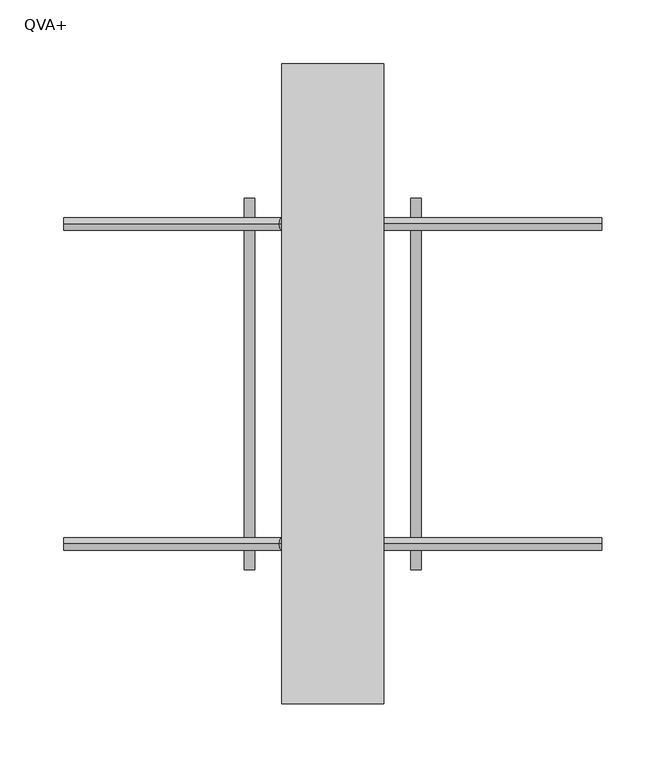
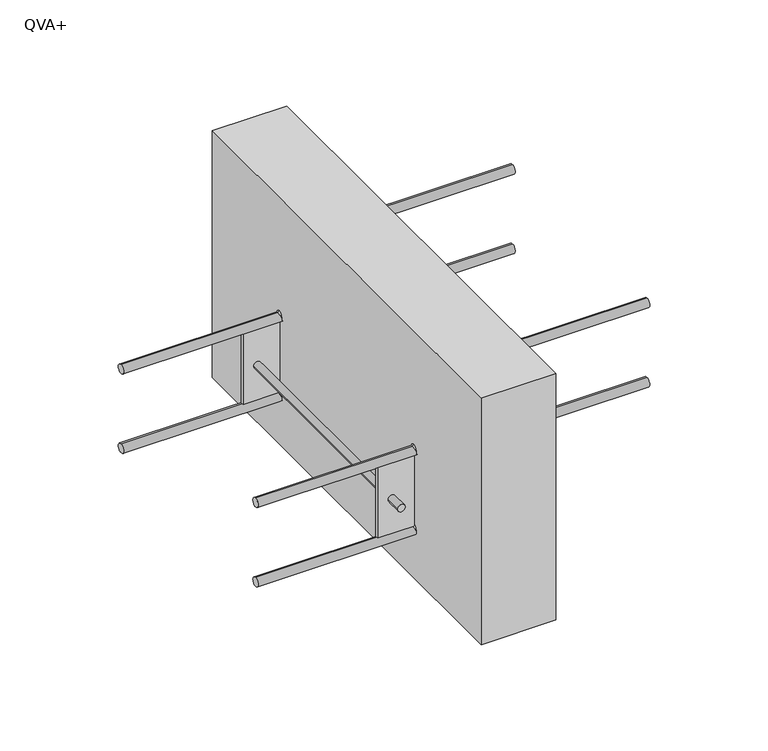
"""IFC4 building model written with IfcOpenShell, lengths in millimetres: fastener geometry, ACINOXplus_Typenreihe_QV : QVA+."""

from ifc_helpers import new_model, si_unit, point, frame, frame_2d, origin, place, context, project, spatial, polyline, circle_curve, ellipse_curve, trimmed, segment, composite_curve, outline, extrude, source, transform, mapped, element, save
from ifc_brep_helpers import plane_surface, cylinder_surface, advanced_brep


def qva_7600d649(model_context):
    return source(origin(), model_context, "Body", "SolidModel", [
        extrude(outline(polyline([(40.0, 250.0), (40.0, -250.0), (-40.0, -250.0), (-40.0, 250.0), (40.0, 250.0)])), frame((0.0, 0.0, -200.0), z_axis=(0.0, 0.0, 1.0), x_axis=(1.0, 0.0, 0.0)), (0.0, 0.0, 1.0), 280.0),
        extrude(outline(polyline([(-60.0, -40.0), (-60.0, -80.0), (-140.0, -80.0), (-140.0, -40.0), (-60.0, 40.0), (-60.0, 80.0), (20.0, 80.0), (20.0, 40.0), (-60.0, -40.0)])), frame((0.0, 123.5, 0.0), z_axis=(0.0, 1.0, 0.0), x_axis=(0.0, 0.0, 1.0)), (0.0, 0.0, 1.0), 3.0),
        extrude(outline(polyline([(-60.0, -40.0), (-60.0, -80.0), (-140.0, -80.0), (-140.0, -40.0), (-60.0, 40.0), (-60.0, 80.0), (20.0, 80.0), (20.0, 40.0), (-60.0, -40.0)])), frame((0.0, -126.5, 0.0), z_axis=(0.0, 1.0, 0.0), x_axis=(0.0, 0.0, 1.0)), (0.0, 0.0, 1.0), 3.0),
        extrude(outline(composite_curve([segment(trimmed(circle_curve(frame_2d((-100.0, -65.0)), 4.0), [point((-100.0, -69.0))], [point((-100.0, -61.0))], False, "CARTESIAN"), True, "CONTINUOUS"), segment(trimmed(circle_curve(frame_2d((-100.0, -65.0)), 4.0), [point((-100.0, -61.0))], [point((-100.0, -69.0))], False, "CARTESIAN"), True, "CONTINUOUS")], self_intersect=False)), frame((0.0, 126.5, 0.0), z_axis=(0.0, 1.0, 0.0), x_axis=(0.0, 0.0, 1.0)), (0.0, 0.0, 1.0), 18.5),
        extrude(outline(composite_curve([segment(trimmed(circle_curve(frame_2d((-100.0, -65.0)), 4.0), [point((-100.0, -61.0))], [point((-100.0, -69.0))], False, "CARTESIAN"), True, "CONTINUOUS"), segment(trimmed(circle_curve(frame_2d((-100.0, -65.0)), 4.0), [point((-100.0, -69.0))], [point((-100.0, -61.0))], False, "CARTESIAN"), True, "CONTINUOUS")], self_intersect=False)), frame((0.0, -145.0, 0.0), z_axis=(0.0, 1.0, 0.0), x_axis=(0.0, 0.0, 1.0)), (0.0, 0.0, 1.0), 18.5),
        extrude(outline(composite_curve([segment(trimmed(circle_curve(frame_2d((-100.0, -65.0)), 4.0), [point((-100.0, -69.0))], [point((-100.0, -61.0))], False, "CARTESIAN"), True, "CONTINUOUS"), segment(trimmed(circle_curve(frame_2d((-100.0, -65.0)), 4.0), [point((-100.0, -61.0))], [point((-100.0, -69.0))], False, "CARTESIAN"), True, "CONTINUOUS")], self_intersect=False)), frame((0.0, -123.5, 0.0), z_axis=(0.0, 1.0, 0.0), x_axis=(0.0, 0.0, 1.0)), (0.0, 0.0, 1.0), 247.0),
        extrude(outline(composite_curve([segment(trimmed(circle_curve(frame_2d((-20.0, 65.0)), 4.0), [point((-20.0, 61.0))], [point((-20.0, 69.0))], False, "CARTESIAN"), True, "CONTINUOUS"), segment(trimmed(circle_curve(frame_2d((-20.0, 65.0)), 4.0), [point((-20.0, 69.0))], [point((-20.0, 61.0))], False, "CARTESIAN"), True, "CONTINUOUS")], self_intersect=False)), frame((0.0, 126.5, 0.0), z_axis=(0.0, 1.0, 0.0), x_axis=(0.0, 0.0, 1.0)), (0.0, 0.0, 1.0), 18.5),
        extrude(outline(composite_curve([segment(trimmed(circle_curve(frame_2d((-20.0, 65.0)), 4.0), [point((-20.0, 69.0))], [point((-20.0, 61.0))], False, "CARTESIAN"), True, "CONTINUOUS"), segment(trimmed(circle_curve(frame_2d((-20.0, 65.0)), 4.0), [point((-20.0, 61.0))], [point((-20.0, 69.0))], False, "CARTESIAN"), True, "CONTINUOUS")], self_intersect=False)), frame((0.0, -145.0, 0.0), z_axis=(0.0, 1.0, 0.0), x_axis=(0.0, 0.0, 1.0)), (0.0, 0.0, 1.0), 18.5),
        extrude(outline(composite_curve([segment(trimmed(circle_curve(frame_2d((-20.0, 65.0)), 4.0), [point((-20.0, 61.0))], [point((-20.0, 69.0))], False, "CARTESIAN"), True, "CONTINUOUS"), segment(trimmed(circle_curve(frame_2d((-20.0, 65.0)), 4.0), [point((-20.0, 69.0))], [point((-20.0, 61.0))], False, "CARTESIAN"), True, "CONTINUOUS")], self_intersect=False)), frame((0.0, -123.5, 0.0), z_axis=(0.0, 1.0, 0.0), x_axis=(0.0, 0.0, 1.0)), (0.0, 0.0, 1.0), 247.0),
        advanced_brep(
        [(-210.0, -125.0, -150.0), (-210.0, -125.0, -140.0), (-37.9289322, -125.0, -150.0), (-42.0710678, -125.0, -140.0), (42.0710678, -125.0, -70.0), (37.9289322, -125.0, -60.0), (210.0, -125.0, -70.0), (210.0, -125.0, -60.0)],
        [
            (0, 1, circle_curve(frame((-210.0, -125.0, -145.0), z_axis=(-1.0, 0.0, 0.0), x_axis=(0.0, 0.0, 1.0)), 5.0)),
            (1, 0, circle_curve(frame((-210.0, -125.0, -145.0), z_axis=(-1.0, 0.0, 0.0), x_axis=(0.0, 0.0, 1.0)), 5.0)),
            (0, 2),
            (2, 3, ellipse_curve(frame((-40.0, -125.0, -145.0), z_axis=(-0.9238795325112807, 0.0, -0.38268343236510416), x_axis=(-0.38268343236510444, 0.0, 0.9238795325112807)), 5.411961, 5.0)),
            (3, 1),
            (3, 2, ellipse_curve(frame((-40.0, -125.0, -145.0), z_axis=(-0.9238795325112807, 0.0, -0.38268343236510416), x_axis=(-0.38268343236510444, 0.0, 0.9238795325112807)), 5.411961, 5.0)),
            (2, 4),
            (4, 5, ellipse_curve(frame((40.0, -125.0, -65.0), z_axis=(-0.9238795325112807, 0.0, -0.38268343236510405), x_axis=(0.3826834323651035, 0.0, -0.923879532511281)), 5.411961, 5.0)),
            (5, 3),
            (5, 4, ellipse_curve(frame((40.0, -125.0, -65.0), z_axis=(-0.9238795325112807, 0.0, -0.38268343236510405), x_axis=(0.3826834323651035, 0.0, -0.923879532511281)), 5.411961, 5.0)),
            (6, 7, circle_curve(frame((210.0, -125.0, -65.0), z_axis=(1.0, 0.0, 0.0), x_axis=(0.0, 0.0, 1.0)), 5.0)),
            (7, 6, circle_curve(frame((210.0, -125.0, -65.0), z_axis=(1.0, 0.0, 0.0), x_axis=(0.0, 0.0, 1.0)), 5.0)),
            (4, 6),
            (7, 5),
        ],
        [
            plane_surface(frame((-210.0, -125.0, -145.0), z_axis=(-1.0, 0.0, 0.0), x_axis=(0.0, -1.0, 0.0))),
            cylinder_surface(frame((-210.0, -125.0, -145.0), z_axis=(-1.0, 0.0, 0.0), x_axis=(0.0, 0.0, 1.0)), 5.0),
            cylinder_surface(frame((-40.0, -125.0, -145.0), z_axis=(-0.7071067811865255, 0.0, -0.7071067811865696), x_axis=(-0.7071067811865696, 0.0, 0.7071067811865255)), 5.0),
            plane_surface(frame((210.0, -125.0, -65.0), z_axis=(1.0, 0.0, 0.0), x_axis=(0.0, -1.0, 0.0))),
            cylinder_surface(frame((40.0, -125.0, -65.0), z_axis=(-1.0, 0.0, 0.0), x_axis=(0.0, 0.0, 1.0)), 5.0),
        ],
        [
            (0, [[1, 2]]),
            (1, [[-1, 3, 4, 5]]),
            (1, [[-2, -5, 6, -3]]),
            (2, [[-4, 7, 8, 9]]),
            (2, [[-6, -9, 10, -7]]),
            (3, [[11, 12]]),
            (4, [[-8, 13, -12, 14]]),
            (4, [[-10, -14, -11, -13]]),
        ],
    ),
        advanced_brep(
        [(-210.0, 125.0, -150.0), (-210.0, 125.0, -140.0), (-37.9289322, 125.0, -150.0), (-42.0710678, 125.0, -140.0), (42.0710678, 125.0, -70.0), (37.9289322, 125.0, -60.0), (210.0, 125.0, -70.0), (210.0, 125.0, -60.0)],
        [
            (0, 1, circle_curve(frame((-210.0, 125.0, -145.0), z_axis=(-1.0, 0.0, 0.0), x_axis=(0.0, 0.0, 1.0)), 5.0)),
            (1, 0, circle_curve(frame((-210.0, 125.0, -145.0), z_axis=(-1.0, 0.0, 0.0), x_axis=(0.0, 0.0, 1.0)), 5.0)),
            (0, 2),
            (2, 3, ellipse_curve(frame((-40.0, 125.0, -145.0), z_axis=(-0.9238795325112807, 0.0, -0.38268343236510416), x_axis=(-0.38268343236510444, 0.0, 0.9238795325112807)), 5.411961, 5.0)),
            (3, 1),
            (3, 2, ellipse_curve(frame((-40.0, 125.0, -145.0), z_axis=(-0.9238795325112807, 0.0, -0.38268343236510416), x_axis=(-0.38268343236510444, 0.0, 0.9238795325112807)), 5.411961, 5.0)),
            (2, 4),
            (4, 5, ellipse_curve(frame((40.0, 125.0, -65.0), z_axis=(-0.9238795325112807, 0.0, -0.38268343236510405), x_axis=(0.3826834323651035, 0.0, -0.923879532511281)), 5.411961, 5.0)),
            (5, 3),
            (5, 4, ellipse_curve(frame((40.0, 125.0, -65.0), z_axis=(-0.9238795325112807, 0.0, -0.38268343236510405), x_axis=(0.3826834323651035, 0.0, -0.923879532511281)), 5.411961, 5.0)),
            (6, 7, circle_curve(frame((210.0, 125.0, -65.0), z_axis=(1.0, 0.0, 0.0), x_axis=(0.0, 0.0, 1.0)), 5.0)),
            (7, 6, circle_curve(frame((210.0, 125.0, -65.0), z_axis=(1.0, 0.0, 0.0), x_axis=(0.0, 0.0, 1.0)), 5.0)),
            (4, 6),
            (7, 5),
        ],
        [
            plane_surface(frame((-210.0, 125.0, -145.0), z_axis=(-1.0, 0.0, 0.0), x_axis=(0.0, -1.0, 0.0))),
            cylinder_surface(frame((-210.0, 125.0, -145.0), z_axis=(-1.0, 0.0, 0.0), x_axis=(0.0, 0.0, 1.0)), 5.0),
            cylinder_surface(frame((-40.0, 125.0, -145.0), z_axis=(-0.7071067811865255, 0.0, -0.7071067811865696), x_axis=(-0.7071067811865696, 0.0, 0.7071067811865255)), 5.0),
            plane_surface(frame((210.0, 125.0, -65.0), z_axis=(1.0, 0.0, 0.0), x_axis=(0.0, -1.0, 0.0))),
            cylinder_surface(frame((40.0, 125.0, -65.0), z_axis=(-1.0, 0.0, 0.0), x_axis=(0.0, 0.0, 1.0)), 5.0),
        ],
        [
            (0, [[1, 2]]),
            (1, [[-1, 3, 4, 5]]),
            (1, [[-2, -5, 6, -3]]),
            (2, [[-4, 7, 8, 9]]),
            (2, [[-6, -9, 10, -7]]),
            (3, [[11, 12]]),
            (4, [[-8, 13, -12, 14]]),
            (4, [[-10, -14, -11, -13]]),
        ],
    ),
        advanced_brep(
        [(-210.0, 125.0, -150.0), (-210.0, 125.0, -140.0), (-37.9289322, 125.0, -150.0), (-42.0710678, 125.0, -140.0), (42.0710678, 125.0, -70.0), (37.9289322, 125.0, -60.0), (210.0, 125.0, -70.0), (210.0, 125.0, -60.0)],
        [
            (0, 1, circle_curve(frame((-210.0, 125.0, -145.0), z_axis=(-1.0, 0.0, 0.0), x_axis=(0.0, 0.0, 1.0)), 5.0)),
            (1, 0, circle_curve(frame((-210.0, 125.0, -145.0), z_axis=(-1.0, 0.0, 0.0), x_axis=(0.0, 0.0, 1.0)), 5.0)),
            (0, 2),
            (2, 3, ellipse_curve(frame((-40.0, 125.0, -145.0), z_axis=(-0.9238795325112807, 0.0, -0.38268343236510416), x_axis=(-0.38268343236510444, 0.0, 0.9238795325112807)), 5.411961, 5.0)),
            (3, 1),
            (3, 2, ellipse_curve(frame((-40.0, 125.0, -145.0), z_axis=(-0.9238795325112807, 0.0, -0.38268343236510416), x_axis=(-0.38268343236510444, 0.0, 0.9238795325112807)), 5.411961, 5.0)),
            (2, 4),
            (4, 5, ellipse_curve(frame((40.0, 125.0, -65.0), z_axis=(-0.9238795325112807, 0.0, -0.38268343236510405), x_axis=(0.3826834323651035, 0.0, -0.923879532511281)), 5.411961, 5.0)),
            (5, 3),
            (5, 4, ellipse_curve(frame((40.0, 125.0, -65.0), z_axis=(-0.9238795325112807, 0.0, -0.38268343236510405), x_axis=(0.3826834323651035, 0.0, -0.923879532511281)), 5.411961, 5.0)),
            (6, 7, circle_curve(frame((210.0, 125.0, -65.0), z_axis=(1.0, 0.0, 0.0), x_axis=(0.0, 0.0, 1.0)), 5.0)),
            (7, 6, circle_curve(frame((210.0, 125.0, -65.0), z_axis=(1.0, 0.0, 0.0), x_axis=(0.0, 0.0, 1.0)), 5.0)),
            (4, 6),
            (7, 5),
        ],
        [
            plane_surface(frame((-210.0, 125.0, -145.0), z_axis=(-1.0, 0.0, 0.0), x_axis=(0.0, -1.0, 0.0))),
            cylinder_surface(frame((-210.0, 125.0, -145.0), z_axis=(-1.0, 0.0, 0.0), x_axis=(0.0, 0.0, 1.0)), 5.0),
            cylinder_surface(frame((-40.0, 125.0, -145.0), z_axis=(-0.7071067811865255, 0.0, -0.7071067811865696), x_axis=(-0.7071067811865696, 0.0, 0.7071067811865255)), 5.0),
            plane_surface(frame((210.0, 125.0, -65.0), z_axis=(1.0, 0.0, 0.0), x_axis=(0.0, -1.0, 0.0))),
            cylinder_surface(frame((40.0, 125.0, -65.0), z_axis=(-1.0, 0.0, 0.0), x_axis=(0.0, 0.0, 1.0)), 5.0),
        ],
        [
            (0, [[1, 2]]),
            (1, [[-1, 3, 4, 5]]),
            (1, [[-2, -5, 6, -3]]),
            (2, [[-4, 7, 8, 9]]),
            (2, [[-6, -9, 10, -7]]),
            (3, [[11, 12]]),
            (4, [[-8, 13, -12, 14]]),
            (4, [[-10, -14, -11, -13]]),
        ],
    ),
        advanced_brep(
        [(-210.0, -125.0, -150.0), (-210.0, -125.0, -140.0), (-37.9289322, -125.0, -150.0), (-42.0710678, -125.0, -140.0), (42.0710678, -125.0, -70.0), (37.9289322, -125.0, -60.0), (210.0, -125.0, -70.0), (210.0, -125.0, -60.0)],
        [
            (0, 1, circle_curve(frame((-210.0, -125.0, -145.0), z_axis=(-1.0, 0.0, 0.0), x_axis=(0.0, 0.0, 1.0)), 5.0)),
            (1, 0, circle_curve(frame((-210.0, -125.0, -145.0), z_axis=(-1.0, 0.0, 0.0), x_axis=(0.0, 0.0, 1.0)), 5.0)),
            (0, 2),
            (2, 3, ellipse_curve(frame((-40.0, -125.0, -145.0), z_axis=(-0.9238795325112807, 0.0, -0.38268343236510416), x_axis=(-0.38268343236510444, 0.0, 0.9238795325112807)), 5.411961, 5.0)),
            (3, 1),
            (3, 2, ellipse_curve(frame((-40.0, -125.0, -145.0), z_axis=(-0.9238795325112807, 0.0, -0.38268343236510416), x_axis=(-0.38268343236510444, 0.0, 0.9238795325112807)), 5.411961, 5.0)),
            (2, 4),
            (4, 5, ellipse_curve(frame((40.0, -125.0, -65.0), z_axis=(-0.9238795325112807, 0.0, -0.38268343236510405), x_axis=(0.3826834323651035, 0.0, -0.923879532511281)), 5.411961, 5.0)),
            (5, 3),
            (5, 4, ellipse_curve(frame((40.0, -125.0, -65.0), z_axis=(-0.9238795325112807, 0.0, -0.38268343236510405), x_axis=(0.3826834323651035, 0.0, -0.923879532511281)), 5.411961, 5.0)),
            (6, 7, circle_curve(frame((210.0, -125.0, -65.0), z_axis=(1.0, 0.0, 0.0), x_axis=(0.0, 0.0, 1.0)), 5.0)),
            (7, 6, circle_curve(frame((210.0, -125.0, -65.0), z_axis=(1.0, 0.0, 0.0), x_axis=(0.0, 0.0, 1.0)), 5.0)),
            (4, 6),
            (7, 5),
        ],
        [
            plane_surface(frame((-210.0, -125.0, -145.0), z_axis=(-1.0, 0.0, 0.0), x_axis=(0.0, -1.0, 0.0))),
            cylinder_surface(frame((-210.0, -125.0, -145.0), z_axis=(-1.0, 0.0, 0.0), x_axis=(0.0, 0.0, 1.0)), 5.0),
            cylinder_surface(frame((-40.0, -125.0, -145.0), z_axis=(-0.7071067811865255, 0.0, -0.7071067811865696), x_axis=(-0.7071067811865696, 0.0, 0.7071067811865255)), 5.0),
            plane_surface(frame((210.0, -125.0, -65.0), z_axis=(1.0, 0.0, 0.0), x_axis=(0.0, -1.0, 0.0))),
            cylinder_surface(frame((40.0, -125.0, -65.0), z_axis=(-1.0, 0.0, 0.0), x_axis=(0.0, 0.0, 1.0)), 5.0),
        ],
        [
            (0, [[1, 2]]),
            (1, [[-1, 3, 4, 5]]),
            (1, [[-2, -5, 6, -3]]),
            (2, [[-4, 7, 8, 9]]),
            (2, [[-6, -9, 10, -7]]),
            (3, [[11, 12]]),
            (4, [[-8, 13, -12, 14]]),
            (4, [[-10, -14, -11, -13]]),
        ],
    ),
        advanced_brep(
        [(-210.0, -125.0, -60.0), (-210.0, -125.0, -50.0), (-37.9289322, -125.0, -60.0), (-42.0710678, -125.0, -50.0), (210.0, -125.0, 20.0), (210.0, -125.0, 30.0), (37.9289322, -125.0, 30.0), (42.0710678, -125.0, 20.0)],
        [
            (0, 1, circle_curve(frame((-210.0, -125.0, -55.0), z_axis=(-1.0, 0.0, 0.0), x_axis=(0.0, 0.0, 1.0)), 5.0)),
            (1, 0, circle_curve(frame((-210.0, -125.0, -55.0), z_axis=(-1.0, 0.0, 0.0), x_axis=(0.0, 0.0, 1.0)), 5.0)),
            (0, 2),
            (2, 3, ellipse_curve(frame((-40.0, -125.0, -55.0), z_axis=(-0.9238795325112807, 0.0, -0.3826834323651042), x_axis=(-0.38268343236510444, 0.0, 0.9238795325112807)), 5.411961, 5.0)),
            (3, 1),
            (3, 2, ellipse_curve(frame((-40.0, -125.0, -55.0), z_axis=(-0.9238795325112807, 0.0, -0.3826834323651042), x_axis=(-0.38268343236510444, 0.0, 0.9238795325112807)), 5.411961, 5.0)),
            (4, 5, circle_curve(frame((210.0, -125.0, 25.0), z_axis=(1.0, 0.0, 0.0), x_axis=(0.0, 0.0, 1.0)), 5.0)),
            (5, 4, circle_curve(frame((210.0, -125.0, 25.0), z_axis=(1.0, 0.0, 0.0), x_axis=(0.0, 0.0, 1.0)), 5.0)),
            (6, 7, ellipse_curve(frame((40.0, -125.0, 25.0), z_axis=(0.9238795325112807, 0.0, 0.3826834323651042), x_axis=(-0.38268343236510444, 0.0, 0.9238795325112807)), 5.411961, 5.0)),
            (7, 4),
            (5, 6),
            (7, 6, ellipse_curve(frame((40.0, -125.0, 25.0), z_axis=(0.9238795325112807, 0.0, 0.3826834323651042), x_axis=(-0.38268343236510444, 0.0, 0.9238795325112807)), 5.411961, 5.0)),
            (2, 7),
            (6, 3),
        ],
        [
            plane_surface(frame((-210.0, -125.0, -55.0), z_axis=(-1.0, 0.0, 0.0), x_axis=(0.0, -1.0, 0.0))),
            cylinder_surface(frame((-210.0, -125.0, -55.0), z_axis=(-1.0, 0.0, 0.0), x_axis=(0.0, 0.0, 1.0)), 5.0),
            plane_surface(frame((210.0, -125.0, 25.0), z_axis=(1.0, 0.0, 0.0), x_axis=(0.0, -1.0, 0.0))),
            cylinder_surface(frame((40.0, -125.0, 25.0), z_axis=(-1.0, 0.0, 0.0), x_axis=(0.0, 0.0, 1.0)), 5.0),
            cylinder_surface(frame((-40.0, -125.0, -55.0), z_axis=(-0.7071067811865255, 0.0, -0.7071067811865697), x_axis=(-0.7071067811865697, 0.0, 0.7071067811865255)), 5.0),
        ],
        [
            (0, [[1, 2]]),
            (1, [[-1, 3, 4, 5]]),
            (1, [[-2, -5, 6, -3]]),
            (2, [[7, 8]]),
            (3, [[9, 10, -8, 11]]),
            (3, [[12, -11, -7, -10]]),
            (4, [[-4, 13, -9, 14]]),
            (4, [[-6, -14, -12, -13]]),
        ],
    ),
        advanced_brep(
        [(-210.0, 125.0, -60.0), (-210.0, 125.0, -50.0), (-37.9289322, 125.0, -60.0), (-42.0710678, 125.0, -50.0), (210.0, 125.0, 20.0), (210.0, 125.0, 30.0), (37.9289322, 125.0, 30.0), (42.0710678, 125.0, 20.0)],
        [
            (0, 1, circle_curve(frame((-210.0, 125.0, -55.0), z_axis=(-1.0, 0.0, 0.0), x_axis=(0.0, 0.0, 1.0)), 5.0)),
            (1, 0, circle_curve(frame((-210.0, 125.0, -55.0), z_axis=(-1.0, 0.0, 0.0), x_axis=(0.0, 0.0, 1.0)), 5.0)),
            (0, 2),
            (2, 3, ellipse_curve(frame((-40.0, 125.0, -55.0), z_axis=(-0.9238795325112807, 0.0, -0.3826834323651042), x_axis=(-0.38268343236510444, 0.0, 0.9238795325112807)), 5.411961, 5.0)),
            (3, 1),
            (3, 2, ellipse_curve(frame((-40.0, 125.0, -55.0), z_axis=(-0.9238795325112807, 0.0, -0.3826834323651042), x_axis=(-0.38268343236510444, 0.0, 0.9238795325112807)), 5.411961, 5.0)),
            (4, 5, circle_curve(frame((210.0, 125.0, 25.0), z_axis=(1.0, 0.0, 0.0), x_axis=(0.0, 0.0, 1.0)), 5.0)),
            (5, 4, circle_curve(frame((210.0, 125.0, 25.0), z_axis=(1.0, 0.0, 0.0), x_axis=(0.0, 0.0, 1.0)), 5.0)),
            (6, 7, ellipse_curve(frame((40.0, 125.0, 25.0), z_axis=(0.9238795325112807, 0.0, 0.3826834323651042), x_axis=(-0.38268343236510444, 0.0, 0.9238795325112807)), 5.411961, 5.0)),
            (7, 4),
            (5, 6),
            (7, 6, ellipse_curve(frame((40.0, 125.0, 25.0), z_axis=(0.9238795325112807, 0.0, 0.3826834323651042), x_axis=(-0.38268343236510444, 0.0, 0.9238795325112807)), 5.411961, 5.0)),
            (2, 7),
            (6, 3),
        ],
        [
            plane_surface(frame((-210.0, 125.0, -55.0), z_axis=(-1.0, 0.0, 0.0), x_axis=(0.0, -1.0, 0.0))),
            cylinder_surface(frame((-210.0, 125.0, -55.0), z_axis=(-1.0, 0.0, 0.0), x_axis=(0.0, 0.0, 1.0)), 5.0),
            plane_surface(frame((210.0, 125.0, 25.0), z_axis=(1.0, 0.0, 0.0), x_axis=(0.0, -1.0, 0.0))),
            cylinder_surface(frame((40.0, 125.0, 25.0), z_axis=(-1.0, 0.0, 0.0), x_axis=(0.0, 0.0, 1.0)), 5.0),
            cylinder_surface(frame((-40.0, 125.0, -55.0), z_axis=(-0.7071067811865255, 0.0, -0.7071067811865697), x_axis=(-0.7071067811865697, 0.0, 0.7071067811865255)), 5.0),
        ],
        [
            (0, [[1, 2]]),
            (1, [[-1, 3, 4, 5]]),
            (1, [[-2, -5, 6, -3]]),
            (2, [[7, 8]]),
            (3, [[9, 10, -8, 11]]),
            (3, [[12, -11, -7, -10]]),
            (4, [[-4, 13, -9, 14]]),
            (4, [[-6, -14, -12, -13]]),
        ],
    ),
        advanced_brep(
        [(-210.0, 125.0, -60.0), (-210.0, 125.0, -50.0), (-37.9289322, 125.0, -60.0), (-42.0710678, 125.0, -50.0), (210.0, 125.0, 20.0), (210.0, 125.0, 30.0), (37.9289322, 125.0, 30.0), (42.0710678, 125.0, 20.0)],
        [
            (0, 1, circle_curve(frame((-210.0, 125.0, -55.0), z_axis=(-1.0, 0.0, 0.0), x_axis=(0.0, 0.0, 1.0)), 5.0)),
            (1, 0, circle_curve(frame((-210.0, 125.0, -55.0), z_axis=(-1.0, 0.0, 0.0), x_axis=(0.0, 0.0, 1.0)), 5.0)),
            (0, 2),
            (2, 3, ellipse_curve(frame((-40.0, 125.0, -55.0), z_axis=(-0.9238795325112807, 0.0, -0.3826834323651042), x_axis=(-0.38268343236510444, 0.0, 0.9238795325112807)), 5.411961, 5.0)),
            (3, 1),
            (3, 2, ellipse_curve(frame((-40.0, 125.0, -55.0), z_axis=(-0.9238795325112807, 0.0, -0.3826834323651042), x_axis=(-0.38268343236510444, 0.0, 0.9238795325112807)), 5.411961, 5.0)),
            (4, 5, circle_curve(frame((210.0, 125.0, 25.0), z_axis=(1.0, 0.0, 0.0), x_axis=(0.0, 0.0, 1.0)), 5.0)),
            (5, 4, circle_curve(frame((210.0, 125.0, 25.0), z_axis=(1.0, 0.0, 0.0), x_axis=(0.0, 0.0, 1.0)), 5.0)),
            (6, 7, ellipse_curve(frame((40.0, 125.0, 25.0), z_axis=(0.9238795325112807, 0.0, 0.3826834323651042), x_axis=(-0.38268343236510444, 0.0, 0.9238795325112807)), 5.411961, 5.0)),
            (7, 4),
            (5, 6),
            (7, 6, ellipse_curve(frame((40.0, 125.0, 25.0), z_axis=(0.9238795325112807, 0.0, 0.3826834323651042), x_axis=(-0.38268343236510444, 0.0, 0.9238795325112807)), 5.411961, 5.0)),
            (2, 7),
            (6, 3),
        ],
        [
            plane_surface(frame((-210.0, 125.0, -55.0), z_axis=(-1.0, 0.0, 0.0), x_axis=(0.0, -1.0, 0.0))),
            cylinder_surface(frame((-210.0, 125.0, -55.0), z_axis=(-1.0, 0.0, 0.0), x_axis=(0.0, 0.0, 1.0)), 5.0),
            plane_surface(frame((210.0, 125.0, 25.0), z_axis=(1.0, 0.0, 0.0), x_axis=(0.0, -1.0, 0.0))),
            cylinder_surface(frame((40.0, 125.0, 25.0), z_axis=(-1.0, 0.0, 0.0), x_axis=(0.0, 0.0, 1.0)), 5.0),
            cylinder_surface(frame((-40.0, 125.0, -55.0), z_axis=(-0.7071067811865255, 0.0, -0.7071067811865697), x_axis=(-0.7071067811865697, 0.0, 0.7071067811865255)), 5.0),
        ],
        [
            (0, [[1, 2]]),
            (1, [[-1, 3, 4, 5]]),
            (1, [[-2, -5, 6, -3]]),
            (2, [[7, 8]]),
            (3, [[9, 10, -8, 11]]),
            (3, [[12, -11, -7, -10]]),
            (4, [[-4, 13, -9, 14]]),
            (4, [[-6, -14, -12, -13]]),
        ],
    ),
        advanced_brep(
        [(-210.0, -125.0, -60.0), (-210.0, -125.0, -50.0), (-37.9289322, -125.0, -60.0), (-42.0710678, -125.0, -50.0), (210.0, -125.0, 20.0), (210.0, -125.0, 30.0), (37.9289322, -125.0, 30.0), (42.0710678, -125.0, 20.0)],
        [
            (0, 1, circle_curve(frame((-210.0, -125.0, -55.0), z_axis=(-1.0, 0.0, 0.0), x_axis=(0.0, 0.0, 1.0)), 5.0)),
            (1, 0, circle_curve(frame((-210.0, -125.0, -55.0), z_axis=(-1.0, 0.0, 0.0), x_axis=(0.0, 0.0, 1.0)), 5.0)),
            (0, 2),
            (2, 3, ellipse_curve(frame((-40.0, -125.0, -55.0), z_axis=(-0.9238795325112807, 0.0, -0.3826834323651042), x_axis=(-0.38268343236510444, 0.0, 0.9238795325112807)), 5.411961, 5.0)),
            (3, 1),
            (3, 2, ellipse_curve(frame((-40.0, -125.0, -55.0), z_axis=(-0.9238795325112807, 0.0, -0.3826834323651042), x_axis=(-0.38268343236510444, 0.0, 0.9238795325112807)), 5.411961, 5.0)),
            (4, 5, circle_curve(frame((210.0, -125.0, 25.0), z_axis=(1.0, 0.0, 0.0), x_axis=(0.0, 0.0, 1.0)), 5.0)),
            (5, 4, circle_curve(frame((210.0, -125.0, 25.0), z_axis=(1.0, 0.0, 0.0), x_axis=(0.0, 0.0, 1.0)), 5.0)),
            (6, 7, ellipse_curve(frame((40.0, -125.0, 25.0), z_axis=(0.9238795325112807, 0.0, 0.3826834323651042), x_axis=(-0.38268343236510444, 0.0, 0.9238795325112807)), 5.411961, 5.0)),
            (7, 4),
            (5, 6),
            (7, 6, ellipse_curve(frame((40.0, -125.0, 25.0), z_axis=(0.9238795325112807, 0.0, 0.3826834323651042), x_axis=(-0.38268343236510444, 0.0, 0.9238795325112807)), 5.411961, 5.0)),
            (2, 7),
            (6, 3),
        ],
        [
            plane_surface(frame((-210.0, -125.0, -55.0), z_axis=(-1.0, 0.0, 0.0), x_axis=(0.0, -1.0, 0.0))),
            cylinder_surface(frame((-210.0, -125.0, -55.0), z_axis=(-1.0, 0.0, 0.0), x_axis=(0.0, 0.0, 1.0)), 5.0),
            plane_surface(frame((210.0, -125.0, 25.0), z_axis=(1.0, 0.0, 0.0), x_axis=(0.0, -1.0, 0.0))),
            cylinder_surface(frame((40.0, -125.0, 25.0), z_axis=(-1.0, 0.0, 0.0), x_axis=(0.0, 0.0, 1.0)), 5.0),
            cylinder_surface(frame((-40.0, -125.0, -55.0), z_axis=(-0.7071067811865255, 0.0, -0.7071067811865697), x_axis=(-0.7071067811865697, 0.0, 0.7071067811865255)), 5.0),
        ],
        [
            (0, [[1, 2]]),
            (1, [[-1, 3, 4, 5]]),
            (1, [[-2, -5, 6, -3]]),
            (2, [[7, 8]]),
            (3, [[9, 10, -8, 11]]),
            (3, [[12, -11, -7, -10]]),
            (4, [[-4, 13, -9, 14]]),
            (4, [[-6, -14, -12, -13]]),
        ],
    ),
    ])


if __name__ == "__main__":
    model = new_model("IFC4")
    model_context = context("Model", 3, world=origin())
    ifc_project = project(units=[si_unit("LENGTHUNIT", "METRE", prefix="MILLI")], contexts=[model_context])
    site = spatial("IfcSite", under=ifc_project)
    building = spatial("IfcBuilding", under=site)
    placement = place(None, origin())
    qva_shape = qva_7600d649(model_context)
    element("IfcFastener", 1, ObjectType="ACINOXplus_Typenreihe_QV : QVA+", at=placement, inside=building, context=model_context, shape_type="MappedRepresentation", body=[
        mapped(qva_shape, transform((0.0, 0.0, 0.0), x_axis=(1.0, 0.0, 0.0), y_axis=(0.0, 1.0, 0.0), z_axis=(0.0, 0.0, 1.0))),
    ])
    save(model, "model.ifc")
